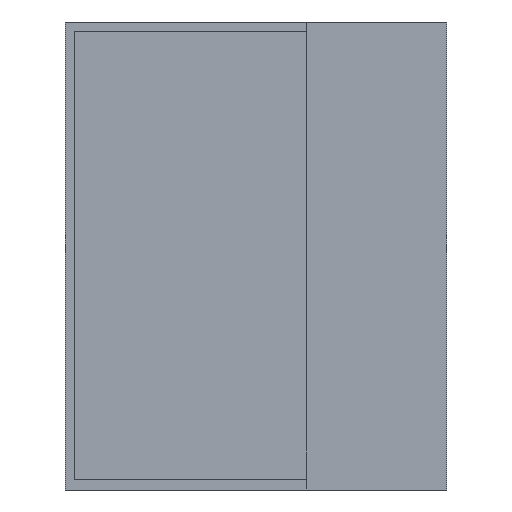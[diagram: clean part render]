
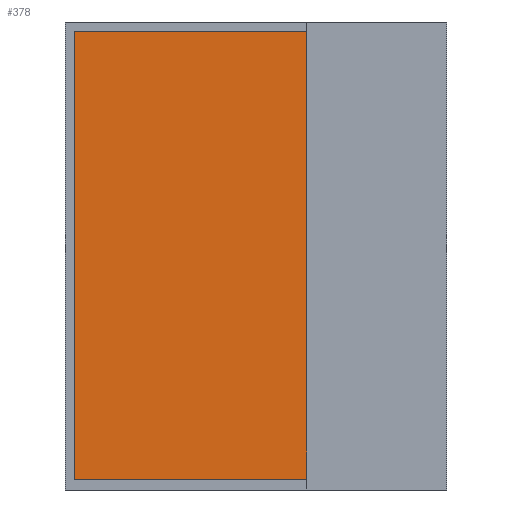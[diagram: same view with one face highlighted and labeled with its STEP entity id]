
A CAD part, left-side view. The second image highlights one B-rep face of the part: STEP entity #378.
In plain terms, the highlighted planar face has unit normal (-1, 0, 0).
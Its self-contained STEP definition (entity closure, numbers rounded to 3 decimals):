
#18=FACE_OUTER_BOUND('',#36,.T.);
#36=EDGE_LOOP('',(#261,#262,#263,#264,#265,#266,#267,#268));
#53=LINE('',#513,#107);
#57=LINE('',#522,#111);
#60=LINE('',#526,#114);
#61=LINE('',#530,#115);
#62=LINE('',#532,#116);
#63=LINE('',#534,#117);
#64=LINE('',#535,#118);
#65=LINE('',#536,#119);
#107=VECTOR('',#419,76.954);
#111=VECTOR('',#425,76.954);
#114=VECTOR('',#430,148.432);
#115=VECTOR('',#433,10.);
#116=VECTOR('',#434,105.);
#117=VECTOR('',#435,10.);
#118=VECTOR('',#436,21.954);
#119=VECTOR('',#437,21.477);
#161=VERTEX_POINT('',#510);
#162=VERTEX_POINT('',#512);
#165=VERTEX_POINT('',#519);
#166=VERTEX_POINT('',#521);
#167=VERTEX_POINT('',#528);
#168=VERTEX_POINT('',#529);
#169=VERTEX_POINT('',#531);
#170=VERTEX_POINT('',#533);
#197=EDGE_CURVE('',#161,#162,#53,.T.);
#201=EDGE_CURVE('',#165,#166,#57,.T.);
#204=EDGE_CURVE('',#162,#165,#60,.T.);
#205=EDGE_CURVE('',#167,#168,#61,.T.);
#206=EDGE_CURVE('',#169,#168,#62,.T.);
#207=EDGE_CURVE('',#170,#169,#63,.T.);
#208=EDGE_CURVE('',#166,#170,#64,.T.);
#209=EDGE_CURVE('',#161,#167,#65,.T.);
#261=ORIENTED_EDGE('',*,*,#205,.T.);
#262=ORIENTED_EDGE('',*,*,#206,.F.);
#263=ORIENTED_EDGE('',*,*,#207,.F.);
#264=ORIENTED_EDGE('',*,*,#208,.F.);
#265=ORIENTED_EDGE('',*,*,#201,.F.);
#266=ORIENTED_EDGE('',*,*,#204,.F.);
#267=ORIENTED_EDGE('',*,*,#197,.F.);
#268=ORIENTED_EDGE('',*,*,#209,.T.);
#360=PLANE('',#398);
#378=ADVANCED_FACE('',(#18),#360,.T.);
#398=AXIS2_PLACEMENT_3D('',#527,#431,#432);
#419=DIRECTION('',(0.,1.,0.));
#425=DIRECTION('',(0.,-1.,0.));
#430=DIRECTION('',(0.,0.,1.));
#431=DIRECTION('center_axis',(-1.,0.,0.));
#432=DIRECTION('ref_axis',(0.,0.,1.));
#433=DIRECTION('',(0.,-1.,0.));
#434=DIRECTION('',(0.,0.,-1.));
#435=DIRECTION('',(0.,-1.,0.));
#436=DIRECTION('',(0.,0.,-1.));
#437=DIRECTION('',(0.,0.,1.));
#510=CARTESIAN_POINT('',(-13.,10.,-151.477));
#512=CARTESIAN_POINT('',(-13.,86.954,-151.477));
#513=CARTESIAN_POINT('',(-13.,86.954,-151.477));
#519=CARTESIAN_POINT('',(-13.,86.954,-3.046));
#521=CARTESIAN_POINT('',(-13.,10.,-3.046));
#522=CARTESIAN_POINT('',(-13.,10.,-3.046));
#526=CARTESIAN_POINT('',(-13.,86.954,-3.046));
#527=CARTESIAN_POINT('Origin',(-13.,0.,-155.));
#528=CARTESIAN_POINT('',(-13.,10.,-130.));
#529=CARTESIAN_POINT('',(-13.,0.,-130.));
#530=CARTESIAN_POINT('',(-13.,10.,-130.));
#531=CARTESIAN_POINT('',(-13.,0.,-25.));
#532=CARTESIAN_POINT('',(-13.,0.,-103.75));
#533=CARTESIAN_POINT('',(-13.,10.,-25.));
#534=CARTESIAN_POINT('',(-13.,10.,-25.));
#535=CARTESIAN_POINT('',(-13.,10.,-151.477));
#536=CARTESIAN_POINT('',(-13.,10.,-77.5));
